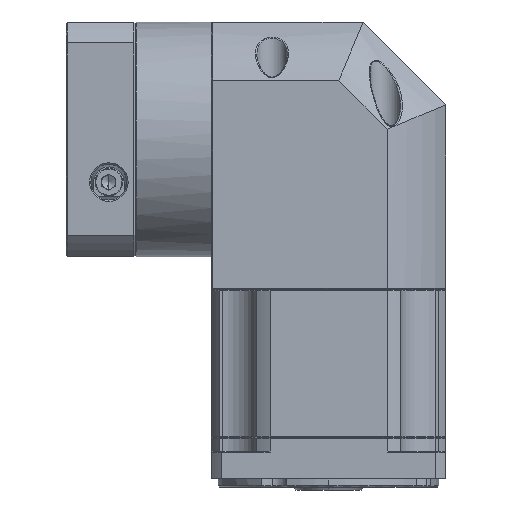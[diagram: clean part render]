
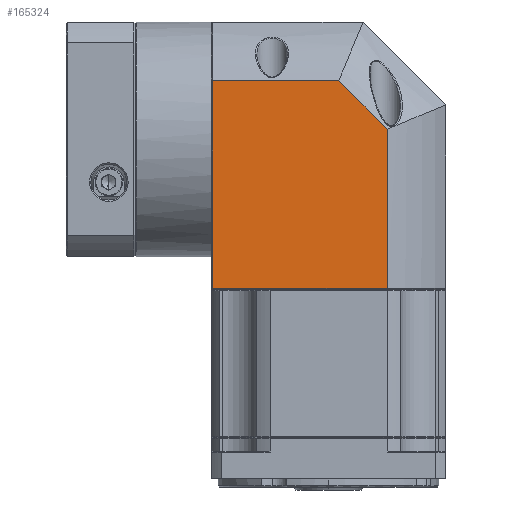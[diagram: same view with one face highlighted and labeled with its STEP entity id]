
A CAD part, left-side view. The second image highlights one B-rep face of the part: STEP entity #165324.
In plain terms, the highlighted planar face has unit normal (-1, 0, 0).
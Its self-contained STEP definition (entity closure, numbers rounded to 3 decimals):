
#2649 = EDGE_LOOP ( 'NONE', ( #147744, #20500, #54485, #132087, #163001 ) ) ;
#16790 = VECTOR ( 'NONE', #117720, 1000. ) ;
#17051 = EDGE_CURVE ( 'NONE', #163948, #111460, #66252, .T. ) ;
#20500 = ORIENTED_EDGE ( 'NONE', *, *, #17051, .F. ) ;
#23065 = CARTESIAN_POINT ( 'NONE',  ( -65.225, -16.498, 234. ) ) ;
#26305 = CARTESIAN_POINT ( 'NONE',  ( -65.225, 47.215, 134. ) ) ;
#31551 = VECTOR ( 'NONE', #62418, 1000. ) ;
#36499 = FACE_OUTER_BOUND ( 'NONE', #2649, .T. ) ;
#45565 = VERTEX_POINT ( 'NONE', #119111 ) ;
#47487 = AXIS2_PLACEMENT_3D ( 'NONE', #128235, #49939, #141332 ) ;
#48819 = PLANE ( 'NONE',  #47487 ) ;
#49939 = DIRECTION ( 'NONE',  ( 1., 0., 0. ) ) ;
#52358 = VERTEX_POINT ( 'NONE', #140387 ) ;
#54485 = ORIENTED_EDGE ( 'NONE', *, *, #94674, .F. ) ;
#60131 = CARTESIAN_POINT ( 'NONE',  ( -65.225, 47.215, 209.213 ) ) ;
#62418 = DIRECTION ( 'NONE',  ( 0., 0., -1. ) ) ;
#64414 = DIRECTION ( 'NONE',  ( 0., -0.707, -0.707 ) ) ;
#66252 = LINE ( 'NONE', #23065, #31551 ) ;
#66543 = CARTESIAN_POINT ( 'NONE',  ( -65.225, 46.715, 230.5 ) ) ;
#68293 = LINE ( 'NONE', #60131, #133700 ) ;
#94674 = EDGE_CURVE ( 'NONE', #45565, #163948, #115943, .T. ) ;
#100747 = EDGE_CURVE ( 'NONE', #136489, #52358, #101058, .T. ) ;
#101058 = LINE ( 'NONE', #66543, #135788 ) ;
#111460 = VERTEX_POINT ( 'NONE', #124884 ) ;
#115943 = LINE ( 'NONE', #168897, #142506 ) ;
#116908 = LINE ( 'NONE', #26305, #16790 ) ;
#117720 = DIRECTION ( 'NONE',  ( 0., -1., 0. ) ) ;
#119111 = CARTESIAN_POINT ( 'NONE',  ( -65.225, 1.033, 209.213 ) ) ;
#119128 = DIRECTION ( 'NONE',  ( 0., 0., 1. ) ) ;
#124884 = CARTESIAN_POINT ( 'NONE',  ( -65.225, -16.498, 134. ) ) ;
#125893 = DIRECTION ( 'NONE',  ( 0., -1., 0. ) ) ;
#128235 = CARTESIAN_POINT ( 'NONE',  ( -65.225, 47.215, 230.5 ) ) ;
#130994 = CARTESIAN_POINT ( 'NONE',  ( -65.225, 46.715, 134. ) ) ;
#132087 = ORIENTED_EDGE ( 'NONE', *, *, #141401, .F. ) ;
#133700 = VECTOR ( 'NONE', #125893, 1000. ) ;
#135788 = VECTOR ( 'NONE', #119128, 1000. ) ;
#136489 = VERTEX_POINT ( 'NONE', #130994 ) ;
#138433 = EDGE_CURVE ( 'NONE', #136489, #111460, #116908, .T. ) ;
#140387 = CARTESIAN_POINT ( 'NONE',  ( -65.225, 46.715, 209.213 ) ) ;
#141332 = DIRECTION ( 'NONE',  ( 0., 1., 0. ) ) ;
#141401 = EDGE_CURVE ( 'NONE', #52358, #45565, #68293, .T. ) ;
#142455 = CARTESIAN_POINT ( 'NONE',  ( -65.225, -16.498, 191.683 ) ) ;
#142506 = VECTOR ( 'NONE', #64414, 1000. ) ;
#147744 = ORIENTED_EDGE ( 'NONE', *, *, #138433, .T. ) ;
#163001 = ORIENTED_EDGE ( 'NONE', *, *, #100747, .F. ) ;
#163948 = VERTEX_POINT ( 'NONE', #142455 ) ;
#165324 = ADVANCED_FACE ( 'NONE', ( #36499 ), #48819, .F. ) ;
#168897 = CARTESIAN_POINT ( 'NONE',  ( -65.225, 1.033, 209.213 ) ) ;
